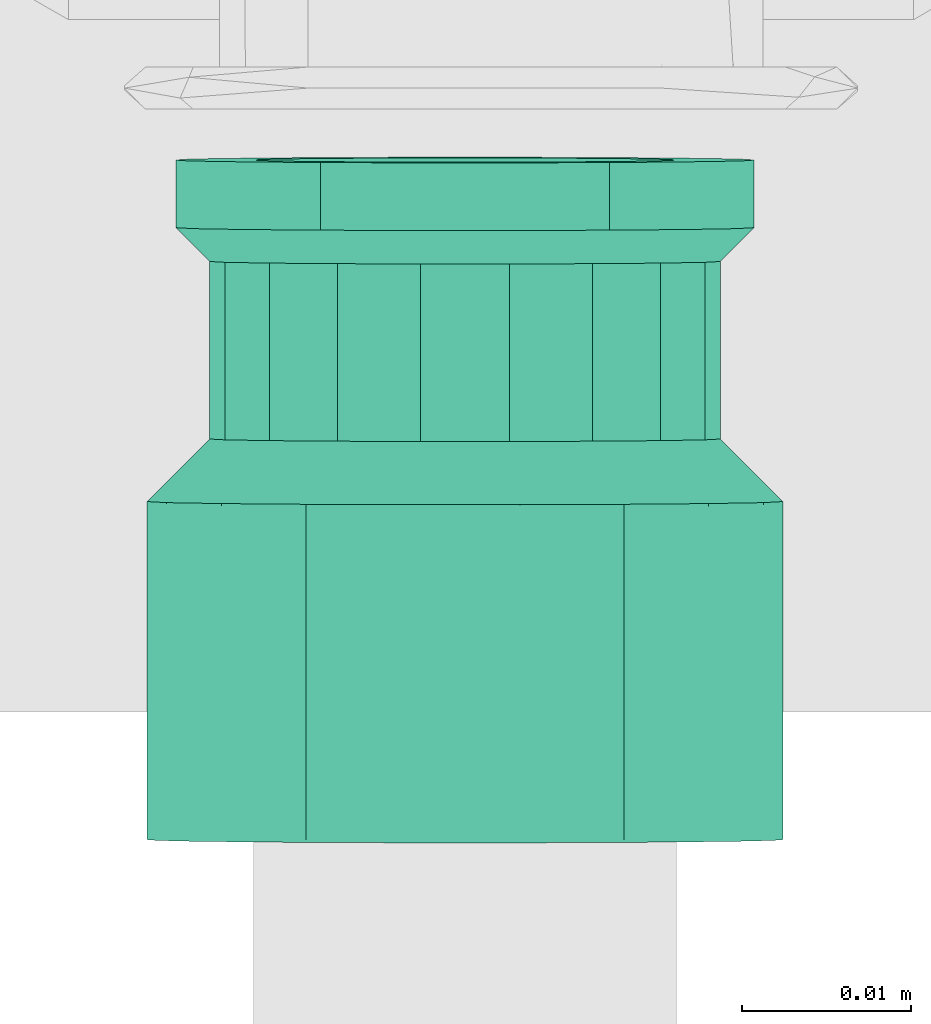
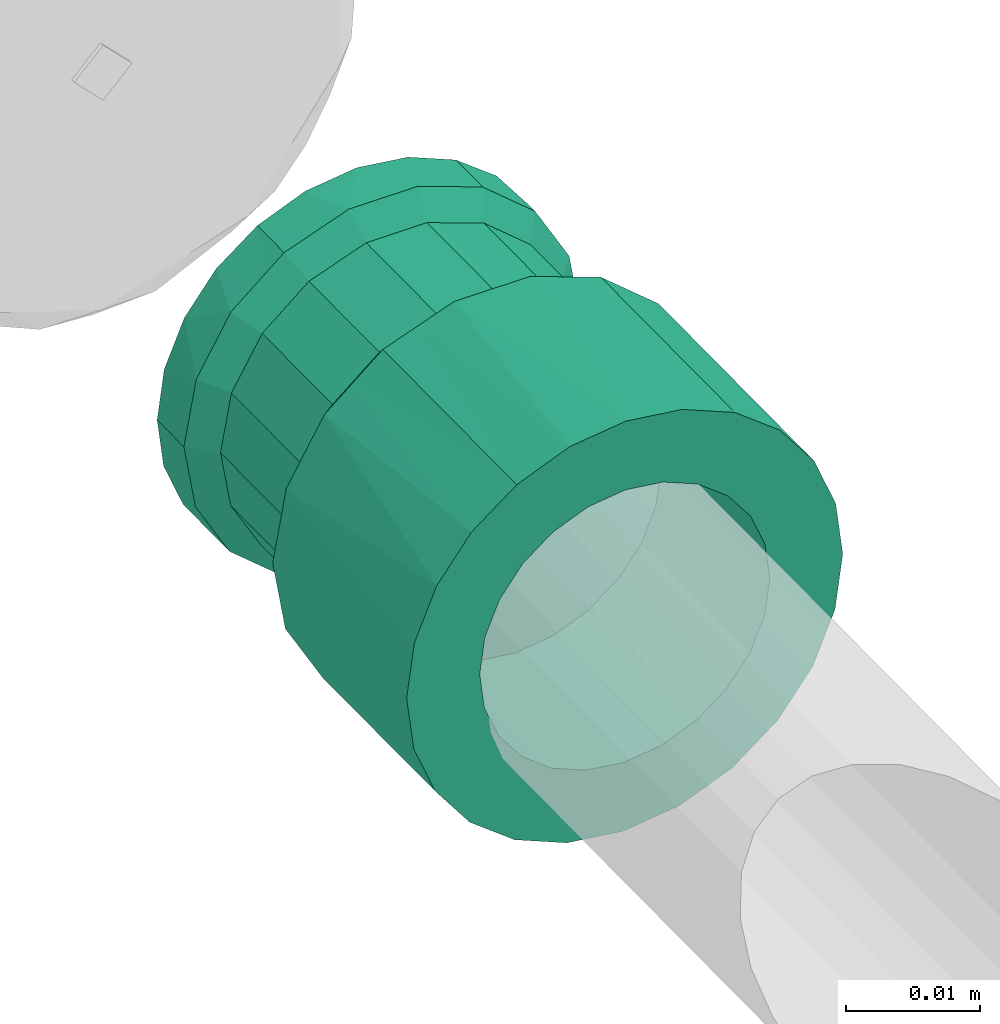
# One storey, part 356 of 589: 1 flow fitting.
"""IFC2X3 building model written with IfcOpenShell, lengths in millimetres."""

from ifc_helpers import new_model, entity, si_unit, converted_unit, derived_unit, direction, frame, origin, place, context, subcontext, project, spatial, faceted_brep, source, transform, mapped, material, type_object, type_shapes, element, save


model = new_model("IFC2X3")

# Units and contexts
model_context = context("Model", 3, precision=0.01, world=origin(), true_north=direction((6.123031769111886e-17, 1.0)))
body_context = subcontext(model_context, "Body", "Model", "MODEL_VIEW")
ifc_project = project(units=[si_unit("LENGTHUNIT", "METRE", prefix="MILLI"), si_unit("AREAUNIT", "SQUARE_METRE"), si_unit("VOLUMEUNIT", "CUBIC_METRE"), converted_unit("PLANEANGLEUNIT", "DEGREE", entity("IfcRatioMeasure", 0.017453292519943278), si_unit("PLANEANGLEUNIT", "RADIAN"), dimensions=[0, 0, 0, 0, 0, 0, 0]), si_unit("MASSUNIT", "GRAM", prefix="KILO"), derived_unit("MASSDENSITYUNIT", [(si_unit("MASSUNIT", "GRAM", prefix="KILO"), 1), (si_unit("LENGTHUNIT", "METRE"), -3)]), derived_unit("IONCONCENTRATIONUNIT", [(si_unit("MASSUNIT", "GRAM", prefix="KILO"), 1), (si_unit("LENGTHUNIT", "METRE"), -3)]), derived_unit("MOMENTOFINERTIAUNIT", [(si_unit("LENGTHUNIT", "METRE"), 4)]), si_unit("TIMEUNIT", "SECOND"), si_unit("FREQUENCYUNIT", "HERTZ"), si_unit("THERMODYNAMICTEMPERATUREUNIT", "DEGREE_CELSIUS"), derived_unit("THERMALTRANSMITTANCEUNIT", [(si_unit("MASSUNIT", "GRAM", prefix="KILO"), 1), (si_unit("THERMODYNAMICTEMPERATUREUNIT", "KELVIN"), -1), (si_unit("TIMEUNIT", "SECOND"), -3)]), derived_unit("THERMALCONDUCTANCEUNIT", [(si_unit("MASSUNIT", "GRAM", prefix="KILO"), 1), (si_unit("THERMODYNAMICTEMPERATUREUNIT", "KELVIN"), -1), (si_unit("TIMEUNIT", "SECOND"), -3), (si_unit("LENGTHUNIT", "METRE"), 1)]), derived_unit("VOLUMETRICFLOWRATEUNIT", [(si_unit("LENGTHUNIT", "METRE"), 3), (si_unit("TIMEUNIT", "SECOND"), -1)]), derived_unit("MASSFLOWRATEUNIT", [(si_unit("MASSUNIT", "GRAM", prefix="KILO"), 1), (si_unit("TIMEUNIT", "SECOND"), -1)]), derived_unit("ROTATIONALFREQUENCYUNIT", [(si_unit("TIMEUNIT", "SECOND"), -1)]), si_unit("ELECTRICCURRENTUNIT", "AMPERE"), si_unit("ELECTRICVOLTAGEUNIT", "VOLT"), si_unit("POWERUNIT", "WATT"), si_unit("FORCEUNIT", "NEWTON", prefix="KILO"), si_unit("ILLUMINANCEUNIT", "LUX"), si_unit("LUMINOUSFLUXUNIT", "LUMEN"), si_unit("LUMINOUSINTENSITYUNIT", "CANDELA"), derived_unit("USERDEFINED", [(si_unit("MASSUNIT", "GRAM", prefix="KILO"), -1), (si_unit("LENGTHUNIT", "METRE"), -2), (si_unit("TIMEUNIT", "SECOND"), 3), (si_unit("LUMINOUSFLUXUNIT", "LUMEN"), 1)]), derived_unit("USERDEFINED", [(si_unit("MASSUNIT", "GRAM", prefix="KILO"), 1), (si_unit("TIMEUNIT", "SECOND"), -3), (si_unit("LENGTHUNIT", "METRE"), 3), (si_unit("ELECTRICCURRENTUNIT", "AMPERE"), -2)]), derived_unit("SOUNDPOWERUNIT", [(si_unit("MASSUNIT", "GRAM", prefix="KILO"), 1), (si_unit("TIMEUNIT", "SECOND"), -3), (si_unit("LENGTHUNIT", "METRE"), 2)]), derived_unit("SOUNDPRESSUREUNIT", [(si_unit("MASSUNIT", "GRAM", prefix="KILO"), 1), (si_unit("LENGTHUNIT", "METRE"), -1), (si_unit("TIMEUNIT", "SECOND"), -2)]), derived_unit("LINEARVELOCITYUNIT", [(si_unit("LENGTHUNIT", "METRE"), 1), (si_unit("TIMEUNIT", "SECOND"), -1)]), si_unit("PRESSUREUNIT", "PASCAL"), derived_unit("USERDEFINED", [(si_unit("MASSUNIT", "GRAM", prefix="KILO"), 1), (si_unit("LENGTHUNIT", "METRE"), -2), (si_unit("TIMEUNIT", "SECOND"), -2)]), derived_unit("LINEARFORCEUNIT", [(si_unit("MASSUNIT", "GRAM", prefix="KILO"), 1), (si_unit("TIMEUNIT", "SECOND"), -2)]), derived_unit("PLANARFORCEUNIT", [(si_unit("MASSUNIT", "GRAM", prefix="KILO"), 1), (si_unit("LENGTHUNIT", "METRE"), -1), (si_unit("TIMEUNIT", "SECOND"), -2)]), derived_unit("SPECIFICHEATCAPACITYUNIT", [(si_unit("THERMODYNAMICTEMPERATUREUNIT", "KELVIN"), -1), (si_unit("LENGTHUNIT", "METRE"), 2), (si_unit("TIMEUNIT", "SECOND"), -2)]), derived_unit("HEATINGVALUEUNIT", [(si_unit("LENGTHUNIT", "METRE"), 2), (si_unit("TIMEUNIT", "SECOND"), -2)]), derived_unit("VAPORPERMEABILITYUNIT", [(si_unit("LENGTHUNIT", "METRE"), -1), (si_unit("TIMEUNIT", "SECOND"), 1)]), derived_unit("DYNAMICVISCOSITYUNIT", [(si_unit("MASSUNIT", "GRAM", prefix="KILO"), 1), (si_unit("TIMEUNIT", "SECOND"), -1), (si_unit("LENGTHUNIT", "METRE"), -1)]), derived_unit("THERMALEXPANSIONCOEFFICIENTUNIT", [(si_unit("THERMODYNAMICTEMPERATUREUNIT", "KELVIN"), -1)]), derived_unit("MODULUSOFELASTICITYUNIT", [(si_unit("MASSUNIT", "GRAM", prefix="KILO"), 1), (si_unit("LENGTHUNIT", "METRE"), -1), (si_unit("TIMEUNIT", "SECOND"), -2)]), derived_unit("ISOTHERMALMOISTURECAPACITYUNIT", [(si_unit("LENGTHUNIT", "METRE"), 3), (si_unit("MASSUNIT", "GRAM", prefix="KILO"), -1)]), derived_unit("MOISTUREDIFFUSIVITYUNIT", [(si_unit("TIMEUNIT", "SECOND"), -1), (si_unit("LENGTHUNIT", "METRE"), 2)])], contexts=[model_context])

# Site, building, storey
site_placement = place(None, origin())
site = spatial("IfcSite", under=ifc_project, at=site_placement, Name="Default", CompositionType="ELEMENT")
building_placement = place(site_placement, origin())
building = spatial("IfcBuilding", under=site, at=building_placement, CompositionType="ELEMENT")
storey_placement = place(building_placement, frame((0.0, 0.0, 100.0)))
storey = spatial("IfcBuildingStorey", under=building, at=storey_placement, Name="TÉRREO", CompositionType="ELEMENT", Elevation=100.0)

# Flow fitting
ifc_material = material(Name="PVC Azul")
pipe_fitting_type = type_object("IfcPipeFittingType", Name="Luva Soldavel com Bucha de Latao - Fortlev - AleBim:Standard", PredefinedType="NOTDEFINED", material=ifc_material)
shared_shape = source(origin(), body_context, "Body", "Brep", [
    faceted_brep([(0.0, 6.249999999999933, -10.825317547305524), (0.0, 13.2936074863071, -13.293607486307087), (0.0, 9.400000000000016, -16.28127759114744), (0.0, 8.838834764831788, -8.838834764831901), (0.0, 3.235238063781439, -12.074072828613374), (0.0, 16.281277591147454, -9.399999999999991), (0.0, 10.82531754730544, -6.250000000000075), (0.0, 12.074072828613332, -3.2352380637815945), (0.0, 18.159405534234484, -4.865798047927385), (0.0, 12.5, 0.0), (0.0, 18.8, 0.0), (0.0, 12.074072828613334, 3.2352380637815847), (0.0, 18.159405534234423, 4.8657980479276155), (0.0, 10.825317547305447, 6.250000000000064), (0.0, 16.281277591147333, 9.400000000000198), (0.0, 8.838834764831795, 8.838834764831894), (0.0, 13.293607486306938, 13.29360748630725), (0.0, 6.249999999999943, 10.825317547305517), (0.0, 9.399999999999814, 16.281277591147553), (0.0, 3.23523806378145, 12.07407282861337), (0.0, 4.865798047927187, 18.159405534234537), (0.0, 0.0, 12.5), (0.0, 0.0, 18.8), (0.0, -3.2352380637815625, 12.074072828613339), (0.0, -4.865798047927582, 18.159405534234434), (0.0, -6.2500000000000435, 10.825317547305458), (0.0, -9.400000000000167, 16.28127759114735), (0.0, -8.838834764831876, 8.838834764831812), (0.0, -13.29360748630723, 13.293607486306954), (0.0, -10.825317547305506, 6.249999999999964), (0.0, -16.281277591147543, 9.399999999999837), (0.0, -18.159405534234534, 4.865798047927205), (0.0, -12.074072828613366, 3.2352380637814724), (0.0, -18.8, 0.0), (0.0, -12.5, 0.0), (0.0, -18.15940553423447, -4.865798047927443), (0.0, -12.074072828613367, -3.2352380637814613), (0.0, -16.281277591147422, -9.400000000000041), (0.0, -10.825317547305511, -6.249999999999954), (0.0, -13.293607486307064, -13.293607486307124), (0.0, -8.838834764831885, -8.838834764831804), (0.0, -9.399999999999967, -16.281277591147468), (0.0, -6.250000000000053, -10.825317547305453), (0.0, -4.86579804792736, -18.159405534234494), (0.0, -3.2352380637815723, -12.074072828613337), (0.0, 0.0, -18.8), (0.0, 0.0, -12.5), (0.0, 4.865798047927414, -18.15940553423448), (20.0, -18.233021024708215, 3.2152355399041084), (20.0, -17.66604204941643, 6.4304710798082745), (20.0, -14.400961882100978, 12.08520983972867), (20.0, -11.899800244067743, 14.183636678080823), (20.0, -16.0335019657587, 9.257840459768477), (20.0, -3.2625216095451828, 18.514749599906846), (20.0, -6.330580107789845, 17.39840655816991), (20.0, -18.8, 0.0), (20.0, -9.398638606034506, 16.282063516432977), (20.0, 17.667654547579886, 6.4260394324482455), (20.0, 6.334944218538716, 17.39681801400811), (20.0, 9.402722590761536, 16.279705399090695), (20.0, 3.267165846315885, 18.513930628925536), (20.0, 11.903357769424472, 14.180651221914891), (20.0, 14.403992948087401, 12.081597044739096), (20.0, 18.8, 0.0), (20.0, 16.03582374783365, 9.253818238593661), (20.0, 0.002322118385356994, 18.51434011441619), (20.0, 17.66765454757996, -6.426039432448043), (20.0, 14.403992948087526, -12.081597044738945), (20.0, 11.903357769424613, -14.180651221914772), (20.0, 16.035823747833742, -9.253818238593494), (20.0, 3.2671658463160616, -18.513930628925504), (20.0, 6.334944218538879, -17.39681801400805), (20.0, -18.233021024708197, -3.2152355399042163), (20.0, 9.402722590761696, -16.2797053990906), (20.0, -3.2625216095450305, -18.514749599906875), (20.0, -6.330580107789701, -17.398406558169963), (20.0, -9.398638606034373, -16.282063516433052), (20.0, -11.899800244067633, -14.183636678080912), (20.0, -17.66604204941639, -6.43047107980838), (20.0, -16.033501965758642, -9.257840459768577), (20.0, -14.400961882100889, -12.085209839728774), (20.0, 0.0023221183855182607, -18.51434011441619), (23.699999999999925, -15.09999999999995, 0.0), (23.69999999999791, -14.19050976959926, 5.16134018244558), (23.699999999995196, -2.6241598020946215, 14.870231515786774), (23.699999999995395, -5.088173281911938, 13.97297617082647), (23.699999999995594, -7.552186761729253, 13.075720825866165), (23.699999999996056, -9.560675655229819, 11.38977837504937), (23.699999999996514, -11.569164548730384, 9.703835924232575), (23.699999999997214, -12.879837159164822, 7.432588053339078), (23.699999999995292, -0.0018651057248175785, 14.870560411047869), (23.69999999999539, 2.620429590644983, 14.870889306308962), (23.699999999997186, 11.566730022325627, 9.706737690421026), (23.699999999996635, 9.557818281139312, 11.392176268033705), (23.699999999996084, 7.548906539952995, 13.077614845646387), (23.699999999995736, 5.084668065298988, 13.974252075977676), (23.699999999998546, 14.189214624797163, 5.164899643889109), (23.699999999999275, 14.644607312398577, 2.582449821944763), (23.69999999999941, 14.732236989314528, 2.0855177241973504), (23.700000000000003, 15.099999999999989, 0.0), (23.699999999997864, 12.877972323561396, 7.4358186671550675), (23.69999999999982, 14.644607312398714, -2.5824498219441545), (23.699999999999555, 14.18921462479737, -5.164899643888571), (23.699999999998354, 2.620429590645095, -14.87088930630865), (23.699999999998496, 5.084668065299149, -13.97425207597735), (23.69999999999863, 7.548906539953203, -13.077614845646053), (23.69999999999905, 11.566730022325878, -9.706737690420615), (23.69999999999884, 9.557818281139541, -11.392176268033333), (23.6999999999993, -14.190509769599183, -5.1613401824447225), (23.699999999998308, -0.0018651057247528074, -14.870560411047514), (23.699999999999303, 12.877972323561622, -7.435818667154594), (23.699999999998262, -2.6241598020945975, -14.870231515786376), (23.699999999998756, -11.569164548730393, -9.703835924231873), (23.699999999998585, -9.56067565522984, -11.389778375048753), (23.69999999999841, -7.552186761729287, -13.075720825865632), (23.699999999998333, -5.088173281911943, -13.972976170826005), (23.69999999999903, -12.879837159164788, -7.432588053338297), (34.20000000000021, 15.099999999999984, 0.0), (34.20000000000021, 14.732236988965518, -2.0855177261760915), (34.20000000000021, 14.189214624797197, -5.164899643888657), (34.20000000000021, 7.548906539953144, -13.077614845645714), (34.20000000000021, 11.566730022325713, -9.706737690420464), (34.20000000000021, 9.55781828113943, -11.39217626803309), (34.20000000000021, 12.877972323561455, -7.43581866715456), (34.20000000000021, 5.084668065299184, -13.974252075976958), (34.20000000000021, 2.620429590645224, -14.870889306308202), (34.20000000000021, -0.0018651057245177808, -14.870560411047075), (34.20000000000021, -2.6241598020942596, -14.870231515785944), (34.20000000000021, -7.552186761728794, -13.075720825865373), (34.20000000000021, -5.0881732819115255, -13.97297617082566), (34.20000000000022, -11.56916454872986, -9.70383592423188), (34.200000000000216, -9.560675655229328, -11.389778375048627), (34.20000000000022, -14.19050976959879, -5.161340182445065), (34.20000000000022, -12.879837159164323, -7.432588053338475), (34.20000000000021, -15.100000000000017, 0.0), (34.199999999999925, -14.190509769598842, 5.161340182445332), (34.19999999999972, -11.569164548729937, 9.703835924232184), (34.199999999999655, -9.56067565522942, 11.389778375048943), (34.19999999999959, -7.552186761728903, 13.0757208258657), (34.199999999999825, -12.879837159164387, 7.432588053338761), (34.19999999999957, -5.08817328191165, 13.972976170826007), (34.19999999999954, -2.624159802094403, 14.87023151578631), (34.19999999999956, -0.0018651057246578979, 14.870560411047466), (34.19999999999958, 2.6204295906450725, 14.870889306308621), (34.199999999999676, 7.548906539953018, 13.077614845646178), (34.199999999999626, 5.084668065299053, 13.974252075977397), (34.20000000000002, 14.18921462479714, 5.164899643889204), (34.20000000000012, 14.644607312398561, 2.582449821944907), (34.19999999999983, 11.566730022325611, 9.706737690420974), (34.199999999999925, 12.877972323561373, 7.435818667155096), (34.199999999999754, 9.557818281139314, 11.392176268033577), (36.200000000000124, 16.068580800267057, 5.848992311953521), (36.199999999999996, 16.584290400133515, 2.9244961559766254), (36.20000000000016, 16.698266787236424, 2.2781566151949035), (36.20000000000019, 17.099999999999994, 0.0), (36.20000000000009, 14.583664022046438, 8.420695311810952), (36.20000000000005, 13.098747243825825, 10.992398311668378), (36.200000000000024, 10.823754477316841, 12.90107378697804), (36.2, 8.548761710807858, 14.809749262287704), (36.19999999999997, 2.9675063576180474, 16.840543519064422), (36.19999999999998, 5.758134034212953, 15.825146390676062), (36.19999999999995, -2.9717306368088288, 16.839798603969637), (36.19999999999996, -0.0021121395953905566, 16.84017106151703), (36.199999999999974, -8.55247639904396, 14.807604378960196), (36.19999999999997, -5.762103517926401, 15.823701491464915), (36.20000000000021, -17.100000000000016, 0.0), (36.2000000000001, -16.070047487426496, 5.844961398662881), (36.20000000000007, -14.585775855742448, 8.417036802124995), (36.200000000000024, -13.101504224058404, 10.989112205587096), (36.2, -10.826990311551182, 12.898358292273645), (36.20000000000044, -16.07004748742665, -5.844961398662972), (36.20000000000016, 2.9675063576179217, -16.84054351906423), (36.200000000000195, -0.0021121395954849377, -16.84017106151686), (36.20000000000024, -2.9717306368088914, -16.839798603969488), (36.200000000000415, -14.58577585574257, -8.417036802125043), (36.20000000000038, -13.10150422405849, -10.989112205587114), (36.20000000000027, -5.7621035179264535, -15.823701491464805), (36.20000000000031, -8.552476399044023, -14.807604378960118), (36.20000000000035, -10.826990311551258, -12.898358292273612), (36.20000000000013, 5.758134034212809, -15.825146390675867), (36.2000000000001, 8.548761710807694, -14.809749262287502), (36.200000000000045, 16.58429040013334, -2.924496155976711), (36.200000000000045, 16.068580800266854, -5.848992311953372), (36.20000000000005, 14.583664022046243, -8.420695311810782), (36.20000000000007, 13.098747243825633, -10.992398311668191), (36.20000000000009, 10.823754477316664, -12.901073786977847), (40.200000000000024, -6.2500000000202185, -10.825317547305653), (40.200000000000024, -12.091525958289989, -12.091525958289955), (40.200000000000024, -8.550000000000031, -14.809034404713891), (40.200000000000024, -8.838834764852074, -8.838834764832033), (40.200000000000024, -3.2352380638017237, -12.074072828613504), (40.200000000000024, -14.809034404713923, -8.549999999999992), (40.200000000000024, -10.825317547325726, -6.250000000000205), (40.200000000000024, -12.074072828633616, -3.235238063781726), (40.200000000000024, -16.517331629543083, -4.4258056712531), (40.200000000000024, -12.500000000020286, 0.0), (40.200000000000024, -17.100000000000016, 0.0), (40.200000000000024, -12.074072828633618, 3.2352380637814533), (40.200000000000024, -16.51733162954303, 4.42580567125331), (40.200000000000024, -10.825317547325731, 6.2499999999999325), (40.200000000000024, -14.809034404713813, 8.550000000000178), (40.200000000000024, -8.83883476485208, 8.838834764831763), (40.200000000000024, -12.091525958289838, 12.091525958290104), (40.200000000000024, -6.250000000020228, 10.825317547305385), (40.200000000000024, -8.549999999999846, 14.809034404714), (40.200000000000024, -3.235238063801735, 12.074072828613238), (40.200000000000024, -4.425805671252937, 16.51733162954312), (40.200000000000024, 0.0, 12.49999999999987), (40.200000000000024, 0.0, 17.1), (40.200000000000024, 3.235238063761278, 12.07407282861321), (40.200000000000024, 4.425805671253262, 16.51733162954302), (40.200000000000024, 6.249999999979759, 10.825317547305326), (40.200000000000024, 8.550000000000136, 14.809034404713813), (40.200000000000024, 8.838834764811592, 8.838834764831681), (40.200000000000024, 12.091525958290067, 12.091525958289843), (40.200000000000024, 10.825317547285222, 6.249999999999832), (40.200000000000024, 14.809034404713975, 8.549999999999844), (40.200000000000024, 16.517331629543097, 4.425805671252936), (40.200000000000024, 12.07407282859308, 3.2352380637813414), (40.200000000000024, 17.099999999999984, 0.0), (40.200000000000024, 12.499999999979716, 0.0), (40.200000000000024, 16.517331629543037, -4.425805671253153), (40.200000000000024, 12.074072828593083, -3.2352380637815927), (40.200000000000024, 14.809034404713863, -8.550000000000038), (40.200000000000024, 10.825317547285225, -6.250000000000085), (40.200000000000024, 12.09152595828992, -12.09152595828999), (40.200000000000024, 8.838834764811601, -8.838834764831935), (40.200000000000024, 8.549999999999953, -14.80903440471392), (40.200000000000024, 6.249999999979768, -10.825317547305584), (40.200000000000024, 4.425805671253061, -16.517331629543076), (40.200000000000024, 3.2352380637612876, -12.074072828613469), (40.200000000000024, 0.0, -17.1), (40.200000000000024, 0.0, -12.500000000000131), (40.200000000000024, -4.425805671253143, -16.51733162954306), (24.0, 0.0, -12.500000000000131), (24.0, 3.2352380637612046, -12.074072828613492), (24.0, 6.2499999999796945, -10.825317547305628), (24.0, 8.838834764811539, -8.838834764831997), (24.0, 10.825317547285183, -6.250000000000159), (24.0, 12.07407282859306, -3.235238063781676), (24.0, 12.499999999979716, 0.0), (24.0, 12.074072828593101, 3.235238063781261), (24.0, 10.82531754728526, 6.24999999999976), (24.0, 8.83883476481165, 8.83883476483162), (24.0, 6.249999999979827, 10.82531754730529), (24.0, 3.235238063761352, 12.07407282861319), (24.0, 0.0, 12.49999999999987), (24.0, -3.2352380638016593, 12.074072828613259), (24.0, -6.250000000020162, 10.825317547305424), (24.0, -8.838834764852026, 8.838834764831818), (24.0, -10.825317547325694, 6.249999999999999), (24.0, -12.074072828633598, 3.235238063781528), (24.0, -12.500000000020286, 0.0), (24.0, -12.07407282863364, -3.2352380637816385), (24.0, -10.825317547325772, -6.250000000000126), (24.0, -8.838834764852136, -8.83883476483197), (24.0, -6.250000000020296, -10.825317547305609), (24.0, -3.23523806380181, -12.074072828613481), (16.200000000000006, 12.5, 0.0), (16.200000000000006, 12.074072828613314, 3.2352380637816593), (16.200000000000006, 10.825317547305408, 6.250000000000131), (16.200000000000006, 6.2499999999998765, 10.825317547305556), (16.200000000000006, 8.838834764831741, 8.83883476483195), (16.200000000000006, 3.2352380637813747, 12.07407282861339), (16.200000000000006, 0.0, 12.5), (16.200000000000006, -3.235238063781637, 12.074072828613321), (16.200000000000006, -6.250000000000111, 10.825317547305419), (16.200000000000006, -8.838834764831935, 8.838834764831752), (16.200000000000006, -12.074072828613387, 3.235238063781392), (16.200000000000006, -10.825317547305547, 6.249999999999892), (16.200000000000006, -12.5, 0.0), (16.200000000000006, -12.074072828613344, -3.2352380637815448), (16.200000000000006, -10.825317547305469, -6.2500000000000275), (16.200000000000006, -6.24999999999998, -10.825317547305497), (16.200000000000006, -8.838834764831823, -8.838834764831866), (16.200000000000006, -3.2352380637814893, -12.07407282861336), (16.200000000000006, 0.0, -12.5), (16.200000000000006, 3.2352380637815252, -12.07407282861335), (16.200000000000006, 6.250000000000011, -10.82531754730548), (16.200000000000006, 8.83883476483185, -8.838834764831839), (16.200000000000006, 12.074072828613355, -3.2352380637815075), (16.200000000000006, 10.825317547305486, -6.249999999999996)], [[[0, 1, 2]], [[3, 1, 0]], [[4, 0, 2]], [[1, 3, 5]], [[5, 3, 6]], [[5, 6, 7]], [[8, 5, 7]], [[9, 8, 7]], [[10, 8, 9]], [[10, 9, 11]], [[12, 10, 11]], [[12, 11, 13]], [[14, 12, 13]], [[14, 13, 15]], [[15, 16, 14]], [[15, 17, 16]], [[18, 16, 17]], [[19, 18, 17]], [[18, 19, 20]], [[21, 20, 19]], [[22, 20, 21]], [[21, 23, 22]], [[24, 22, 23]], [[25, 24, 23]], [[24, 25, 26]], [[25, 27, 26]], [[27, 28, 26]], [[28, 27, 29]], [[28, 29, 30]], [[30, 29, 31]], [[31, 29, 32]], [[33, 31, 32]], [[32, 34, 33]], [[33, 34, 35]], [[34, 36, 35]], [[37, 35, 36]], [[37, 36, 38]], [[39, 37, 38]], [[40, 39, 38]], [[40, 41, 39]], [[42, 41, 40]], [[43, 41, 42]], [[42, 44, 43]], [[43, 44, 45]], [[46, 45, 44]], [[46, 4, 47]], [[45, 46, 47]], [[2, 47, 4]], [[48, 49, 31]], [[28, 50, 51]], [[50, 30, 49, 52]], [[53, 24, 54]], [[30, 31, 49]], [[55, 48, 33]], [[26, 54, 24]], [[51, 56, 26]], [[30, 50, 28]], [[14, 57, 12]], [[58, 59, 18]], [[26, 56, 54]], [[58, 18, 20]], [[22, 24, 53]], [[51, 26, 28]], [[20, 60, 58]], [[16, 61, 62]], [[12, 57, 63]], [[33, 48, 31]], [[57, 14, 62, 64]], [[12, 63, 10]], [[18, 61, 16]], [[22, 53, 65, 60]], [[14, 16, 62]], [[59, 61, 18]], [[22, 60, 20]], [[8, 63, 66]], [[1, 67, 68]], [[67, 5, 66, 69]], [[70, 47, 71]], [[5, 8, 66]], [[8, 10, 63]], [[5, 67, 1]], [[72, 55, 33]], [[2, 73, 71]], [[45, 47, 70]], [[43, 74, 75]], [[75, 76, 41]], [[76, 77, 41]], [[37, 78, 35]], [[79, 78, 37, 80]], [[72, 33, 35]], [[80, 39, 77]], [[35, 78, 72]], [[68, 73, 2]], [[45, 70, 81, 74]], [[68, 2, 1]], [[2, 71, 47]], [[37, 39, 80]], [[41, 77, 39]], [[45, 74, 43]], [[75, 41, 43]], [[48, 82, 83]], [[84, 54, 85]], [[86, 51, 87]], [[88, 52, 89]], [[84, 53, 54]], [[86, 56, 51]], [[83, 49, 48]], [[88, 50, 52]], [[85, 56, 86]], [[48, 55, 82]], [[52, 49, 89]], [[87, 51, 50]], [[90, 53, 84]], [[89, 49, 83]], [[85, 54, 56]], [[87, 50, 88]], [[91, 60, 65]], [[92, 61, 93]], [[94, 59, 58]], [[91, 65, 90]], [[94, 58, 95]], [[57, 96, 97]], [[63, 97, 98, 99]], [[96, 57, 64]], [[96, 64, 100]], [[92, 62, 61]], [[100, 62, 92]], [[60, 95, 58]], [[61, 59, 93]], [[100, 64, 62]], [[57, 97, 63]], [[93, 59, 94]], [[90, 65, 53]], [[95, 60, 91]], [[63, 101, 66]], [[101, 63, 99]], [[101, 102, 66]], [[103, 70, 104]], [[71, 73, 105]], [[68, 67, 106]], [[105, 73, 107]], [[69, 66, 102]], [[72, 78, 108]], [[104, 70, 71]], [[81, 103, 109]], [[110, 67, 69]], [[109, 74, 81]], [[69, 102, 110]], [[107, 73, 68]], [[68, 106, 107]], [[109, 111, 74]], [[112, 80, 113]], [[75, 74, 111]], [[106, 67, 110]], [[70, 103, 81]], [[114, 76, 115]], [[71, 105, 104]], [[79, 80, 112]], [[108, 78, 116]], [[77, 76, 114]], [[79, 112, 116]], [[116, 78, 79]], [[72, 82, 55]], [[113, 80, 77]], [[82, 72, 108]], [[77, 114, 113]], [[115, 76, 75]], [[75, 111, 115]], [[102, 101, 99, 117, 118, 119]], [[120, 105, 107, 106, 121, 122]], [[110, 102, 119, 123, 121, 106]], [[104, 105, 120, 124, 125, 103]], [[109, 103, 125, 126, 127, 111]], [[128, 114, 115, 111, 127, 129]], [[130, 112, 113, 114, 128, 131]], [[132, 108, 116, 112, 130, 133]], [[132, 134, 82, 108]], [[82, 134, 135, 83]], [[86, 87, 88, 136, 137, 138]], [[89, 83, 135, 139, 136, 88]], [[85, 86, 138, 140, 141, 84]], [[84, 141, 142, 143, 91, 90]], [[144, 94, 95, 91, 143, 145]], [[117, 99, 98, 97, 96, 146, 147]], [[146, 96, 100, 92, 148, 149]], [[148, 92, 93, 94, 144, 150]], [[151, 152, 153, 154, 117, 147, 146]], [[155, 151, 146, 149, 148, 156]], [[157, 156, 148, 150, 144, 158]], [[144, 145, 143, 159, 160, 158]], [[142, 141, 161, 162, 159, 143]], [[140, 138, 163, 164, 161, 141]], [[135, 134, 165, 166]], [[136, 139, 135, 166, 167, 168]], [[138, 137, 136, 168, 169, 163]], [[134, 132, 170, 165]], [[126, 125, 171, 172, 173, 127]], [[174, 170, 132, 133, 130, 175]], [[173, 176, 177, 128, 129, 127]], [[130, 131, 128, 177, 178, 175]], [[179, 171, 125, 124, 120, 180]], [[118, 117, 154, 181, 182, 119]], [[121, 123, 119, 182, 183, 184]], [[120, 122, 121, 184, 185, 180]], [[186, 187, 188]], [[189, 187, 186]], [[190, 186, 188]], [[187, 189, 191]], [[191, 189, 192]], [[191, 192, 193]], [[194, 191, 193]], [[195, 194, 193]], [[196, 194, 195]], [[196, 195, 197]], [[198, 196, 197]], [[198, 197, 199]], [[200, 198, 199]], [[200, 199, 201]], [[201, 202, 200]], [[201, 203, 202]], [[204, 202, 203]], [[205, 204, 203]], [[204, 205, 206]], [[207, 206, 205]], [[208, 206, 207]], [[207, 209, 208]], [[210, 208, 209]], [[211, 210, 209]], [[210, 211, 212]], [[211, 213, 212]], [[213, 214, 212]], [[214, 213, 215]], [[214, 215, 216]], [[216, 215, 217]], [[217, 215, 218]], [[219, 217, 218]], [[218, 220, 219]], [[219, 220, 221]], [[220, 222, 221]], [[223, 221, 222]], [[223, 222, 224]], [[225, 223, 224]], [[226, 225, 224]], [[226, 227, 225]], [[228, 227, 226]], [[229, 227, 228]], [[228, 230, 229]], [[229, 230, 231]], [[232, 231, 230]], [[232, 190, 233]], [[231, 232, 233]], [[188, 233, 190]], [[152, 151, 217]], [[214, 156, 157]], [[156, 216, 151, 155]], [[159, 210, 160]], [[216, 217, 151]], [[219, 154, 153, 152]], [[157, 158, 212]], [[157, 212, 214]], [[216, 156, 214]], [[164, 163, 204]], [[164, 204, 206]], [[212, 158, 160]], [[212, 160, 210]], [[208, 210, 159]], [[219, 152, 217]], [[206, 161, 164]], [[202, 169, 168]], [[198, 166, 165]], [[166, 200, 168, 167]], [[198, 165, 196]], [[204, 169, 202]], [[208, 159, 162, 161]], [[208, 161, 206]], [[200, 202, 168]], [[163, 169, 204]], [[200, 166, 198]], [[194, 165, 170]], [[187, 175, 178]], [[175, 191, 170, 174]], [[173, 233, 176]], [[191, 194, 170]], [[194, 196, 165]], [[188, 176, 233]], [[178, 177, 188]], [[191, 175, 187]], [[181, 219, 221]], [[179, 180, 227]], [[188, 177, 176]], [[179, 227, 229]], [[231, 233, 173]], [[178, 188, 187]], [[229, 171, 179]], [[225, 185, 184]], [[221, 182, 181]], [[182, 223, 184, 183]], [[223, 182, 221]], [[227, 185, 225]], [[231, 173, 172, 171]], [[231, 171, 229]], [[223, 225, 184]], [[180, 185, 227]], [[181, 154, 219]], [[234, 235, 236, 237, 238, 239, 240, 241, 242, 243, 244, 245, 246, 247, 248, 249, 250, 251, 252, 253, 254, 255, 256, 257]], [[240, 220, 218, 241]], [[258, 259, 11, 9]], [[241, 218, 215, 242]], [[259, 260, 13, 11]], [[244, 243, 213, 211]], [[261, 17, 15, 262]], [[215, 213, 243, 242]], [[15, 13, 260, 262]], [[245, 244, 211, 209]], [[263, 19, 17, 261]], [[207, 246, 245, 209]], [[263, 264, 21, 19]], [[247, 205, 203, 248]], [[265, 266, 25, 23]], [[248, 203, 201, 249]], [[266, 267, 27, 25]], [[251, 250, 199, 197]], [[268, 32, 29, 269]], [[201, 199, 250, 249]], [[29, 27, 267, 269]], [[252, 251, 197, 195]], [[270, 34, 32, 268]], [[247, 246, 207, 205]], [[21, 264, 265, 23]], [[252, 195, 193, 253]], [[270, 271, 36, 34]], [[253, 193, 192, 254]], [[271, 272, 38, 36]], [[256, 255, 189, 186]], [[273, 42, 40, 274]], [[192, 189, 255, 254]], [[40, 38, 272, 274]], [[257, 256, 186, 190]], [[275, 44, 42, 273]], [[232, 234, 257, 190]], [[275, 276, 46, 44]], [[235, 230, 228, 236]], [[277, 278, 0, 4]], [[236, 228, 226, 237]], [[278, 279, 3, 0]], [[239, 238, 224, 222]], [[280, 7, 6, 281]], [[226, 224, 238, 237]], [[6, 3, 279, 281]], [[240, 239, 222, 220]], [[258, 9, 7, 280]], [[235, 234, 232, 230]], [[46, 276, 277, 4]], [[276, 275, 273, 274, 272, 271, 270, 268, 269, 267, 266, 265, 264, 263, 261, 262, 260, 259, 258, 280, 281, 279, 278, 277]]]),
])
type_shapes(pipe_fitting_type, [shared_shape])
flow_fitting_placement = place(storey_placement, frame((-5713.3644188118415, -566.4634071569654, 2579.037588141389), z_axis=(0.0, -0.009999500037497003, 0.9999500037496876), x_axis=(0.0, 0.9999500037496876, 0.009999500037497)))
element("IfcFlowFitting", 1, at=flow_fitting_placement, inside=storey, type_object=pipe_fitting_type, material=ifc_material, Name="Luva Soldavel com Bucha de Latao - Fortlev - AleBim:Standard", ObjectType="Luva Soldavel com Bucha de Latao - Fortlev - AleBim:Standard", context=body_context, shape_type="MappedRepresentation", body=[
    mapped(shared_shape, transform((0.0, 0.0, 0.0), scale=1.0)),
])

save(model, "model.ifc")
